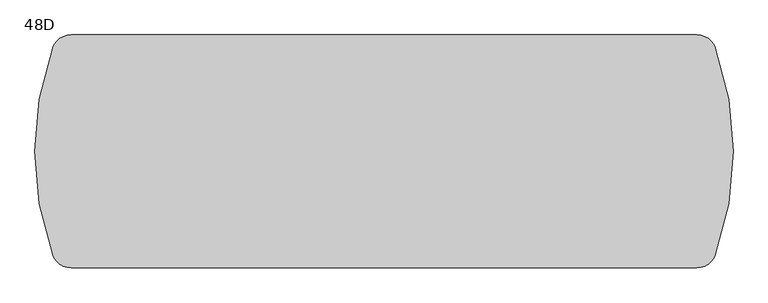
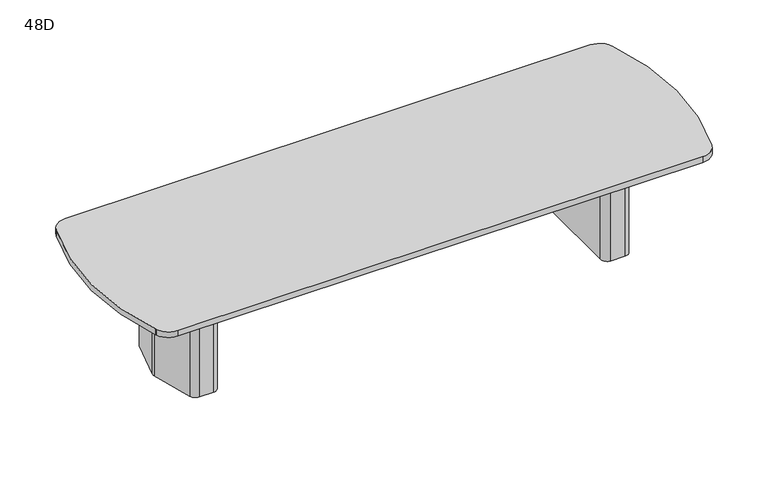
"""IFC4 building model written with IfcOpenShell, lengths in millimetres: furniture geometry, Coalesse_AM_Table_Conference_ETable2_SoftRadiused_12ft_TwoBase : 48D."""

from ifc_helpers import new_model, si_unit, point, frame, frame_2d, origin, place, context, project, spatial, polyline, circle_curve, trimmed, segment, composite_curve, outline, extrude, source, transform, mapped, element, save
from ifc_brep_helpers import plane_surface, cylinder_surface, revolved_surface, advanced_brep


def furniture_48d_a1ee706f(model_context):
    return source(origin(), model_context, "Body", "SolidModel", [
        advanced_brep(
        [(1370.224548, 274.2093613, 698.5), (1330.3579246, 304.8, 698.5), (1241.425, 304.8, 698.5), (1200.15, 263.525, 698.5), (1200.15, -263.525, 698.5), (1241.425, -304.8, 698.5), (1330.3579246, -304.8, 698.5), (1370.224548, -274.2093613, 698.5), (1440.8503901, -10.6333708, 698.5), (1440.8503901, 10.6333708, 698.5), (1238.25, -206.375, 698.5), (1238.25, 206.375, 698.5), (1263.65, 231.775, 698.5), (1322.6608422, 231.775, 698.5), (1347.195338, 212.9490792, 698.5), (1385.8875, 68.54974, 698.5), (1385.8875, -68.54974, 698.5), (1347.195338, -212.9490792, 698.5), (1322.6608422, -231.775, 698.5), (1263.65, -231.775, 698.5), (1370.224548, 274.2093613, 3.175), (1440.8503901, 10.6333708, 3.175), (1440.8503901, -10.6333708, 3.175), (1370.224548, -274.2093613, 3.175), (1330.3579246, -304.8, 3.175), (1241.425, -304.8, 3.175), (1200.15, -263.525, 3.175), (1200.15, 263.525, 3.175), (1241.425, 304.8, 3.175), (1330.3579246, 304.8, 3.175), (1359.4625859, 216.2361187, 3.175), (1322.6608422, 244.475, 3.175), (1263.65, 244.475, 3.175), (1225.55, 206.375, 3.175), (1225.55, -206.375, 3.175), (1263.65, -244.475, 3.175), (1322.6608422, -244.475, 3.175), (1359.4625859, -216.2361187, 3.175), (1398.5875, -70.2217466, 3.175), (1398.5875, 70.2217466, 3.175), (1263.65, -231.775, 3.175), (1238.25, -206.375, 3.175), (1322.6608422, -231.775, 3.175), (1347.195338, -212.9490792, 3.175), (1385.8875, -68.54974, 3.175), (1385.8875, 68.54974, 3.175), (1347.195338, 212.9490792, 3.175), (1322.6608422, 231.775, 3.175), (1263.65, 231.775, 3.175), (1238.25, 206.375, 3.175), (1359.4625859, 216.2361187, 0.0), (1398.5875, 70.2217466, 0.0), (1398.5875, -70.2217466, 0.0), (1359.4625859, -216.2361187, 0.0), (1322.6608422, -244.475, 0.0), (1263.65, -244.475, 0.0), (1225.55, -206.375, 0.0), (1225.55, 206.375, 0.0), (1263.65, 244.475, 0.0), (1322.6608422, 244.475, 0.0)],
        [
            (0, 1, circle_curve(frame((1330.3579246, 263.5270004, 698.5), z_axis=(0.0, 0.0, 1.0), x_axis=(-1.0, 0.0, 0.0)), 41.2729996)),
            (1, 2),
            (2, 3, circle_curve(frame((1241.425, 263.525, 698.5), z_axis=(0.0, 0.0, 1.0), x_axis=(-1.0, 0.0, 0.0)), 41.275)),
            (3, 4),
            (4, 5, circle_curve(frame((1241.425, -263.525, 698.5), z_axis=(0.0, 0.0, 1.0), x_axis=(-1.0, 0.0, 0.0)), 41.275)),
            (5, 6),
            (6, 7, circle_curve(frame((1330.3579246, -263.5270004, 698.5), z_axis=(0.0, 0.0, 1.0), x_axis=(-1.0, 0.0, 0.0)), 41.2729996)),
            (7, 8),
            (8, 9, circle_curve(frame((1401.1665979, 0.0, 698.5), z_axis=(0.0, 0.0, 1.0), x_axis=(-1.0, 0.0, 0.0)), 41.0837187)),
            (9, 0),
            (10, 11),
            (11, 12, circle_curve(frame((1263.65, 206.375, 698.5), z_axis=(0.0, 0.0, -1.0), x_axis=(-1.0, 0.0, 0.0)), 25.4)),
            (12, 13),
            (13, 14, circle_curve(frame((1322.6608422, 206.375, 698.5), z_axis=(0.0, 0.0, -1.0), x_axis=(-1.0, 0.0, 0.0)), 25.4)),
            (14, 15),
            (15, 16),
            (16, 17),
            (17, 18, circle_curve(frame((1322.6608422, -206.375, 698.5), z_axis=(0.0, 0.0, -1.0), x_axis=(-1.0, 0.0, 0.0)), 25.4)),
            (18, 19),
            (19, 10, circle_curve(frame((1263.65, -206.375, 698.5), z_axis=(0.0, 0.0, -1.0), x_axis=(-1.0, 0.0, 0.0)), 25.4)),
            (20, 21),
            (21, 22, circle_curve(frame((1401.1665979, 0.0, 3.175), z_axis=(0.0, 0.0, -1.0), x_axis=(-1.0, 0.0, 0.0)), 41.0837187)),
            (22, 23),
            (23, 24, circle_curve(frame((1330.3579246, -263.5270004, 3.175), z_axis=(0.0, 0.0, -1.0), x_axis=(-1.0, 0.0, 0.0)), 41.2729996)),
            (24, 25),
            (25, 26, circle_curve(frame((1241.425, -263.525, 3.175), z_axis=(0.0, 0.0, -1.0), x_axis=(-1.0, 0.0, 0.0)), 41.275)),
            (26, 27),
            (27, 28, circle_curve(frame((1241.425, 263.525, 3.175), z_axis=(0.0, 0.0, -1.0), x_axis=(-1.0, 0.0, 0.0)), 41.275)),
            (28, 29),
            (29, 20, circle_curve(frame((1330.3579246, 263.5270004, 3.175), z_axis=(0.0, 0.0, -1.0), x_axis=(-1.0, 0.0, 0.0)), 41.2729996)),
            (30, 31, circle_curve(frame((1322.6608422, 206.375, 3.175), z_axis=(0.0, 0.0, 1.0), x_axis=(-1.0, 0.0, 0.0)), 38.1)),
            (31, 32),
            (32, 33, circle_curve(frame((1263.65, 206.375, 3.175), z_axis=(0.0, 0.0, 1.0), x_axis=(-1.0, 0.0, 0.0)), 38.1)),
            (33, 34),
            (34, 35, circle_curve(frame((1263.65, -206.375, 3.175), z_axis=(0.0, 0.0, 1.0), x_axis=(-1.0, 0.0, 0.0)), 38.1)),
            (35, 36),
            (36, 37, circle_curve(frame((1322.6608422, -206.375, 3.175), z_axis=(0.0, 0.0, 1.0), x_axis=(-1.0, 0.0, 0.0)), 38.1)),
            (37, 38),
            (38, 39),
            (39, 30),
            (9, 21),
            (20, 0),
            (8, 22),
            (7, 23),
            (6, 24),
            (5, 25),
            (4, 26),
            (3, 27),
            (2, 28),
            (1, 29),
            (19, 40),
            (40, 41, circle_curve(frame((1263.65, -206.375, 3.175), z_axis=(0.0, 0.0, -1.0), x_axis=(-1.0, 0.0, 0.0)), 25.4)),
            (41, 10),
            (18, 42),
            (42, 40),
            (17, 43),
            (43, 42, circle_curve(frame((1322.6608422, -206.375, 3.175), z_axis=(0.0, 0.0, -1.0), x_axis=(-1.0, 0.0, 0.0)), 25.4)),
            (16, 44),
            (44, 43),
            (15, 45),
            (45, 44),
            (14, 46),
            (46, 45),
            (13, 47),
            (47, 46, circle_curve(frame((1322.6608422, 206.375, 3.175), z_axis=(0.0, 0.0, -1.0), x_axis=(-1.0, 0.0, 0.0)), 25.4)),
            (12, 48),
            (48, 47),
            (11, 49),
            (49, 48, circle_curve(frame((1263.65, 206.375, 3.175), z_axis=(0.0, 0.0, -1.0), x_axis=(-1.0, 0.0, 0.0)), 25.4)),
            (41, 49),
            (50, 51),
            (51, 52),
            (52, 53),
            (53, 54, circle_curve(frame((1322.6608422, -206.375, 0.0), z_axis=(0.0, 0.0, -1.0), x_axis=(-1.0, 0.0, 0.0)), 38.1)),
            (54, 55),
            (55, 56, circle_curve(frame((1263.65, -206.375, 0.0), z_axis=(0.0, 0.0, -1.0), x_axis=(-1.0, 0.0, 0.0)), 38.1)),
            (56, 57),
            (57, 58, circle_curve(frame((1263.65, 206.375, 0.0), z_axis=(0.0, 0.0, -1.0), x_axis=(-1.0, 0.0, 0.0)), 38.1)),
            (58, 59),
            (59, 50, circle_curve(frame((1322.6608422, 206.375, 0.0), z_axis=(0.0, 0.0, -1.0), x_axis=(-1.0, 0.0, 0.0)), 38.1)),
            (50, 30),
            (39, 51),
            (38, 52),
            (37, 53),
            (36, 54),
            (35, 55),
            (34, 56),
            (33, 57),
            (32, 58),
            (31, 59),
        ],
        [
            plane_surface(frame((1440.8374275, 10.6817473, 698.5), z_axis=(0.0, 0.0, 1.0000000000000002), x_axis=(0.25882201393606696, -0.9659250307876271, 0.0))),
            plane_surface(frame((1440.8374275, 10.6817473, 3.175), z_axis=(0.0, 0.0, -1.0000000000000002), x_axis=(-0.25882201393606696, 0.9659250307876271, 0.0))),
            plane_surface(frame((1370.224548, 274.2093613, 698.5), z_axis=(0.9659250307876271, 0.25882201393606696, 0.0), x_axis=(0.0, 0.0, -1.0))),
            cylinder_surface(frame((1401.1665979, 0.0, 3.175), z_axis=(0.0, 0.0, 1.0), x_axis=(-1.0, 0.0, 0.0)), 41.0837187),
            plane_surface(frame((1440.8503901, -10.6333708, 698.5), z_axis=(0.9659250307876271, -0.2588220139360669, 0.0), x_axis=(0.0, 0.0, -1.0))),
            cylinder_surface(frame((1330.3579246, -263.5270004, 3.175), z_axis=(0.0, 0.0, 1.0), x_axis=(-1.0, 0.0, 0.0)), 41.2729996),
            plane_surface(frame((1330.3579246, -304.8, 698.5), z_axis=(0.0, -1.0, 0.0), x_axis=(0.0, 0.0, -1.0))),
            cylinder_surface(frame((1241.425, -263.525, 3.175), z_axis=(0.0, 0.0, 1.0), x_axis=(-1.0, 0.0, 0.0)), 41.275),
            plane_surface(frame((1200.15, -263.525, 698.5), z_axis=(-1.0, 0.0, 0.0), x_axis=(0.0, 0.0, -1.0))),
            cylinder_surface(frame((1241.425, 263.525, 3.175), z_axis=(0.0, 0.0, 1.0), x_axis=(-1.0, 0.0, 0.0)), 41.275),
            plane_surface(frame((1241.425, 304.8, 698.5), z_axis=(0.0, 1.0, 0.0), x_axis=(0.0, 0.0, -1.0))),
            cylinder_surface(frame((1330.3579246, 263.5270004, 3.175), z_axis=(0.0, 0.0, 1.0), x_axis=(-1.0, 0.0, 0.0)), 41.2729996),
            revolved_surface(polyline([(1238.25, -206.375, 3.175), (1238.25, -206.375, 698.5)]), (1263.65, -206.375, 0.0), (0.0, 0.0, -1.0)),
            plane_surface(frame((1263.65, -231.775, 698.5), z_axis=(0.0, 1.0, 0.0), x_axis=(0.0, 0.0, -1.0))),
            revolved_surface(polyline([(1297.2608421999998, -206.375, 3.175), (1297.2608421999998, -206.375, 698.5)]), (1322.6608422, -206.375, 0.0), (0.0, 0.0, -1.0)),
            plane_surface(frame((1347.195338, -212.9490792, 698.5), z_axis=(-0.9659250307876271, 0.2588220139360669, 0.0), x_axis=(0.0, 0.0, -1.0))),
            plane_surface(frame((1385.8875, -68.54974, 698.5), z_axis=(-1.0, 0.0, 0.0), x_axis=(0.0, 0.0, -1.0))),
            plane_surface(frame((1385.8875, 68.54974, 698.5), z_axis=(-0.9659250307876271, -0.25882201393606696, 0.0), x_axis=(0.0, 0.0, -1.0))),
            revolved_surface(polyline([(1297.2608421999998, 206.375, 3.175), (1297.2608421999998, 206.375, 698.5)]), (1322.6608422, 206.375, 0.0), (0.0, 0.0, -1.0)),
            plane_surface(frame((1322.6608422, 231.775, 698.5), z_axis=(0.0, -1.0, 0.0), x_axis=(0.0, 0.0, -1.0))),
            revolved_surface(polyline([(1238.25, 206.375, 3.175), (1238.25, 206.375, 698.5)]), (1263.65, 206.375, 0.0), (0.0, 0.0, -1.0)),
            plane_surface(frame((1238.25, 206.375, 698.5), z_axis=(1.0, 0.0, 0.0), x_axis=(0.0, 0.0, -1.0))),
            plane_surface(frame((1398.1547479, 71.8367796, 3.175), z_axis=(0.0, 0.0, 1.0), x_axis=(0.25882201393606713, -0.965925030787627, 0.0))),
            plane_surface(frame((1398.1547479, 71.8367796, 0.0), z_axis=(0.0, 0.0, -1.0), x_axis=(-0.25882201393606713, 0.965925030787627, 0.0))),
            plane_surface(frame((1359.4625859, 216.2361187, 3.175), z_axis=(0.965925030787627, 0.25882201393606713, 0.0), x_axis=(0.0, 0.0, -1.0))),
            plane_surface(frame((1398.5875, 70.2217466, 3.175), z_axis=(1.0, 0.0, 0.0), x_axis=(0.0, 0.0, -1.0))),
            plane_surface(frame((1398.5875, -70.2217466, 3.175), z_axis=(0.9659250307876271, -0.2588220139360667, 0.0), x_axis=(0.0, 0.0, -1.0))),
            cylinder_surface(frame((1322.6608422, -206.375, 0.0), z_axis=(0.0, 0.0, 1.0), x_axis=(-1.0, 0.0, 0.0)), 38.1),
            plane_surface(frame((1322.6608422, -244.475, 3.175), z_axis=(0.0, -1.0, 0.0), x_axis=(0.0, 0.0, -1.0))),
            cylinder_surface(frame((1263.65, -206.375, 0.0), z_axis=(0.0, 0.0, 1.0), x_axis=(-1.0, 0.0, 0.0)), 38.1),
            plane_surface(frame((1225.55, -206.375, 3.175), z_axis=(-1.0, 0.0, 0.0), x_axis=(0.0, 0.0, -1.0))),
            cylinder_surface(frame((1263.65, 206.375, 0.0), z_axis=(0.0, 0.0, 1.0), x_axis=(-1.0, 0.0, 0.0)), 38.1),
            plane_surface(frame((1263.65, 244.475, 3.175), z_axis=(0.0, 1.0, 0.0), x_axis=(0.0, 0.0, -1.0))),
            cylinder_surface(frame((1322.6608422, 206.375, 0.0), z_axis=(0.0, 0.0, 1.0), x_axis=(-1.0, 0.0, 0.0)), 38.1),
        ],
        [
            (0, [[1, 2, 3, 4, 5, 6, 7, 8, 9, 10], [11, 12, 13, 14, 15, 16, 17, 18, 19, 20]]),
            (1, [[21, 22, 23, 24, 25, 26, 27, 28, 29, 30], [31, 32, 33, 34, 35, 36, 37, 38, 39, 40]]),
            (2, [[41, -21, 42, -10]]),
            (3, [[43, -22, -41, -9]]),
            (4, [[44, -23, -43, -8]]),
            (5, [[45, -24, -44, -7]]),
            (6, [[46, -25, -45, -6]]),
            (7, [[47, -26, -46, -5]]),
            (8, [[48, -27, -47, -4]]),
            (9, [[49, -28, -48, -3]]),
            (10, [[50, -29, -49, -2]]),
            (11, [[-42, -30, -50, -1]]),
            (12, [[51, 52, 53, -20]]),
            (13, [[54, 55, -51, -19]]),
            (14, [[56, 57, -54, -18]]),
            (15, [[58, 59, -56, -17]]),
            (16, [[60, 61, -58, -16]]),
            (17, [[62, 63, -60, -15]]),
            (18, [[64, 65, -62, -14]]),
            (19, [[66, 67, -64, -13]]),
            (20, [[68, 69, -66, -12]]),
            (21, [[-53, 70, -68, -11]]),
            (22, [[-55, -57, -59, -61, -63, -65, -67, -69, -70, -52]]),
            (23, [[71, 72, 73, 74, 75, 76, 77, 78, 79, 80]]),
            (24, [[81, -40, 82, -71]]),
            (25, [[-82, -39, 83, -72]]),
            (26, [[-83, -38, 84, -73]]),
            (27, [[-84, -37, 85, -74]]),
            (28, [[-85, -36, 86, -75]]),
            (29, [[-86, -35, 87, -76]]),
            (30, [[-87, -34, 88, -77]]),
            (31, [[-88, -33, 89, -78]]),
            (32, [[-89, -32, 90, -79]]),
            (33, [[-90, -31, -81, -80]]),
        ],
    ),
        advanced_brep(
        [(-1370.224548, 274.2093613, 698.5), (-1440.8503901, 10.6333708, 698.5), (-1440.8503901, -10.6333708, 698.5), (-1370.224548, -274.2093613, 698.5), (-1330.3579246, -304.8, 698.5), (-1241.425, -304.8, 698.5), (-1200.15, -263.525, 698.5), (-1200.15, 263.525, 698.5), (-1241.425, 304.8, 698.5), (-1330.3579246, 304.8, 698.5), (-1238.25, -206.375, 698.5), (-1263.65, -231.775, 698.5), (-1322.6608422, -231.775, 698.5), (-1347.195338, -212.9490792, 698.5), (-1385.8875, -68.54974, 698.5), (-1385.8875, 68.54974, 698.5), (-1347.195338, 212.9490792, 698.5), (-1322.6608422, 231.775, 698.5), (-1263.65, 231.775, 698.5), (-1238.25, 206.375, 698.5), (-1370.224548, 274.2093613, 3.175), (-1330.3579246, 304.8, 3.175), (-1241.425, 304.8, 3.175), (-1200.15, 263.525, 3.175), (-1200.15, -263.525, 3.175), (-1241.425, -304.8, 3.175), (-1330.3579246, -304.8, 3.175), (-1370.224548, -274.2093613, 3.175), (-1440.8503901, -10.6333708, 3.175), (-1440.8503901, 10.6333708, 3.175), (-1359.4625859, 216.2361187, 3.175), (-1398.5875, 70.2217466, 3.175), (-1398.5875, -70.2217466, 3.175), (-1359.4625859, -216.2361187, 3.175), (-1322.6608422, -244.475, 3.175), (-1263.65, -244.475, 3.175), (-1225.55, -206.375, 3.175), (-1225.55, 206.375, 3.175), (-1263.65, 244.475, 3.175), (-1322.6608422, 244.475, 3.175), (-1238.25, -206.375, 3.175), (-1263.65, -231.775, 3.175), (-1322.6608422, -231.775, 3.175), (-1347.195338, -212.9490792, 3.175), (-1385.8875, -68.54974, 3.175), (-1385.8875, 68.54974, 3.175), (-1347.195338, 212.9490792, 3.175), (-1322.6608422, 231.775, 3.175), (-1263.65, 231.775, 3.175), (-1238.25, 206.375, 3.175), (-1359.4625859, 216.2361187, 0.0), (-1322.6608422, 244.475, 0.0), (-1263.65, 244.475, 0.0), (-1225.55, 206.375, 0.0), (-1225.55, -206.375, 0.0), (-1263.65, -244.475, 0.0), (-1322.6608422, -244.475, 0.0), (-1359.4625859, -216.2361187, 0.0), (-1398.5875, -70.2217466, 0.0), (-1398.5875, 70.2217466, 0.0)],
        [
            (0, 1),
            (1, 2, circle_curve(frame((-1401.1665979, 0.0, 698.5), z_axis=(0.0, 0.0, 1.0), x_axis=(1.0, 0.0, 0.0)), 41.0837187)),
            (2, 3),
            (3, 4, circle_curve(frame((-1330.3579246, -263.5270004, 698.5), z_axis=(0.0, 0.0, 1.0), x_axis=(1.0, 0.0, 0.0)), 41.2729996)),
            (4, 5),
            (5, 6, circle_curve(frame((-1241.425, -263.525, 698.5), z_axis=(0.0, 0.0, 1.0), x_axis=(1.0, 0.0, 0.0)), 41.275)),
            (6, 7),
            (7, 8, circle_curve(frame((-1241.425, 263.525, 698.5), z_axis=(0.0, 0.0, 1.0), x_axis=(1.0, 0.0, 0.0)), 41.275)),
            (8, 9),
            (9, 0, circle_curve(frame((-1330.3579246, 263.5270004, 698.5), z_axis=(0.0, 0.0, 1.0), x_axis=(1.0, 0.0, 0.0)), 41.2729996)),
            (10, 11, circle_curve(frame((-1263.65, -206.375, 698.5), z_axis=(0.0, 0.0, -1.0), x_axis=(1.0, 0.0, 0.0)), 25.4)),
            (11, 12),
            (12, 13, circle_curve(frame((-1322.6608422, -206.375, 698.5), z_axis=(0.0, 0.0, -1.0), x_axis=(1.0, 0.0, 0.0)), 25.4)),
            (13, 14),
            (14, 15),
            (15, 16),
            (16, 17, circle_curve(frame((-1322.6608422, 206.375, 698.5), z_axis=(0.0, 0.0, -1.0), x_axis=(1.0, 0.0, 0.0)), 25.4)),
            (17, 18),
            (18, 19, circle_curve(frame((-1263.65, 206.375, 698.5), z_axis=(0.0, 0.0, -1.0), x_axis=(1.0, 0.0, 0.0)), 25.4)),
            (19, 10),
            (20, 21, circle_curve(frame((-1330.3579246, 263.5270004, 3.175), z_axis=(0.0, 0.0, -1.0), x_axis=(1.0, 0.0, 0.0)), 41.2729996)),
            (21, 22),
            (22, 23, circle_curve(frame((-1241.425, 263.525, 3.175), z_axis=(0.0, 0.0, -1.0), x_axis=(1.0, 0.0, 0.0)), 41.275)),
            (23, 24),
            (24, 25, circle_curve(frame((-1241.425, -263.525, 3.175), z_axis=(0.0, 0.0, -1.0), x_axis=(1.0, 0.0, 0.0)), 41.275)),
            (25, 26),
            (26, 27, circle_curve(frame((-1330.3579246, -263.5270004, 3.175), z_axis=(0.0, 0.0, -1.0), x_axis=(1.0, 0.0, 0.0)), 41.2729996)),
            (27, 28),
            (28, 29, circle_curve(frame((-1401.1665979, 0.0, 3.175), z_axis=(0.0, 0.0, -1.0), x_axis=(1.0, 0.0, 0.0)), 41.0837187)),
            (29, 20),
            (30, 31),
            (31, 32),
            (32, 33),
            (33, 34, circle_curve(frame((-1322.6608422, -206.375, 3.175), z_axis=(0.0, 0.0, 1.0), x_axis=(1.0, 0.0, 0.0)), 38.1)),
            (34, 35),
            (35, 36, circle_curve(frame((-1263.65, -206.375, 3.175), z_axis=(0.0, 0.0, 1.0), x_axis=(1.0, 0.0, 0.0)), 38.1)),
            (36, 37),
            (37, 38, circle_curve(frame((-1263.65, 206.375, 3.175), z_axis=(0.0, 0.0, 1.0), x_axis=(1.0, 0.0, 0.0)), 38.1)),
            (38, 39),
            (39, 30, circle_curve(frame((-1322.6608422, 206.375, 3.175), z_axis=(0.0, 0.0, 1.0), x_axis=(1.0, 0.0, 0.0)), 38.1)),
            (0, 20),
            (29, 1),
            (28, 2),
            (27, 3),
            (26, 4),
            (25, 5),
            (24, 6),
            (23, 7),
            (22, 8),
            (21, 9),
            (10, 40),
            (40, 41, circle_curve(frame((-1263.65, -206.375, 3.175), z_axis=(0.0, 0.0, -1.0), x_axis=(1.0, 0.0, 0.0)), 25.4)),
            (41, 11),
            (41, 42),
            (42, 12),
            (42, 43, circle_curve(frame((-1322.6608422, -206.375, 3.175), z_axis=(0.0, 0.0, -1.0), x_axis=(1.0, 0.0, 0.0)), 25.4)),
            (43, 13),
            (43, 44),
            (44, 14),
            (44, 45),
            (45, 15),
            (45, 46),
            (46, 16),
            (46, 47, circle_curve(frame((-1322.6608422, 206.375, 3.175), z_axis=(0.0, 0.0, -1.0), x_axis=(1.0, 0.0, 0.0)), 25.4)),
            (47, 17),
            (47, 48),
            (48, 18),
            (48, 49, circle_curve(frame((-1263.65, 206.375, 3.175), z_axis=(0.0, 0.0, -1.0), x_axis=(1.0, 0.0, 0.0)), 25.4)),
            (49, 19),
            (49, 40),
            (50, 51, circle_curve(frame((-1322.6608422, 206.375, 0.0), z_axis=(0.0, 0.0, -1.0), x_axis=(1.0, 0.0, 0.0)), 38.1)),
            (51, 52),
            (52, 53, circle_curve(frame((-1263.65, 206.375, 0.0), z_axis=(0.0, 0.0, -1.0), x_axis=(1.0, 0.0, 0.0)), 38.1)),
            (53, 54),
            (54, 55, circle_curve(frame((-1263.65, -206.375, 0.0), z_axis=(0.0, 0.0, -1.0), x_axis=(1.0, 0.0, 0.0)), 38.1)),
            (55, 56),
            (56, 57, circle_curve(frame((-1322.6608422, -206.375, 0.0), z_axis=(0.0, 0.0, -1.0), x_axis=(1.0, 0.0, 0.0)), 38.1)),
            (57, 58),
            (58, 59),
            (59, 50),
            (59, 31),
            (30, 50),
            (58, 32),
            (57, 33),
            (56, 34),
            (55, 35),
            (54, 36),
            (53, 37),
            (52, 38),
            (51, 39),
        ],
        [
            plane_surface(frame((-1440.8374275, 10.6817473, 698.5), z_axis=(0.0, 0.0, 1.0000000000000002), x_axis=(-0.25882201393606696, -0.9659250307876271, 0.0))),
            plane_surface(frame((-1440.8374275, 10.6817473, 3.175), z_axis=(0.0, 0.0, -1.0000000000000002), x_axis=(0.25882201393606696, 0.9659250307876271, 0.0))),
            plane_surface(frame((-1370.224548, 274.2093613, 698.5), z_axis=(-0.9659250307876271, 0.25882201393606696, 0.0), x_axis=(0.0, 0.0, -1.0))),
            cylinder_surface(frame((-1401.1665979, 0.0, 3.175), z_axis=(0.0, 0.0, 1.0), x_axis=(1.0, 0.0, 0.0)), 41.0837187),
            plane_surface(frame((-1440.8503901, -10.6333708, 698.5), z_axis=(-0.9659250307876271, -0.2588220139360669, 0.0), x_axis=(0.0, 0.0, -1.0))),
            cylinder_surface(frame((-1330.3579246, -263.5270004, 3.175), z_axis=(0.0, 0.0, 1.0), x_axis=(1.0, 0.0, 0.0)), 41.2729996),
            plane_surface(frame((-1330.3579246, -304.8, 698.5), z_axis=(0.0, -1.0, 0.0), x_axis=(0.0, 0.0, -1.0))),
            cylinder_surface(frame((-1241.425, -263.525, 3.175), z_axis=(0.0, 0.0, 1.0), x_axis=(1.0, 0.0, 0.0)), 41.275),
            plane_surface(frame((-1200.15, -263.525, 698.5), z_axis=(1.0, 0.0, 0.0), x_axis=(0.0, 0.0, -1.0))),
            cylinder_surface(frame((-1241.425, 263.525, 3.175), z_axis=(0.0, 0.0, 1.0), x_axis=(1.0, 0.0, 0.0)), 41.275),
            plane_surface(frame((-1241.425, 304.8, 698.5), z_axis=(0.0, 1.0, 0.0), x_axis=(0.0, 0.0, -1.0))),
            cylinder_surface(frame((-1330.3579246, 263.5270004, 3.175), z_axis=(0.0, 0.0, 1.0), x_axis=(1.0, 0.0, 0.0)), 41.2729996),
            revolved_surface(polyline([(-1238.25, -206.375, 3.175), (-1238.25, -206.375, 698.5)]), (-1263.65, -206.375, 0.0), (0.0, 0.0, -1.0)),
            plane_surface(frame((-1263.65, -231.775, 698.5), z_axis=(0.0, 1.0, 0.0), x_axis=(0.0, 0.0, -1.0))),
            revolved_surface(polyline([(-1297.2608421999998, -206.375, 3.175), (-1297.2608421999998, -206.375, 698.5)]), (-1322.6608422, -206.375, 0.0), (0.0, 0.0, -1.0)),
            plane_surface(frame((-1347.195338, -212.9490792, 698.5), z_axis=(0.9659250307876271, 0.2588220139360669, 0.0), x_axis=(0.0, 0.0, -1.0))),
            plane_surface(frame((-1385.8875, -68.54974, 698.5), z_axis=(1.0, 0.0, 0.0), x_axis=(0.0, 0.0, -1.0))),
            plane_surface(frame((-1385.8875, 68.54974, 698.5), z_axis=(0.9659250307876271, -0.25882201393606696, 0.0), x_axis=(0.0, 0.0, -1.0))),
            revolved_surface(polyline([(-1297.2608421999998, 206.375, 3.175), (-1297.2608421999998, 206.375, 698.5)]), (-1322.6608422, 206.375, 0.0), (0.0, 0.0, -1.0)),
            plane_surface(frame((-1322.6608422, 231.775, 698.5), z_axis=(0.0, -1.0, 0.0), x_axis=(0.0, 0.0, -1.0))),
            revolved_surface(polyline([(-1238.25, 206.375, 3.175), (-1238.25, 206.375, 698.5)]), (-1263.65, 206.375, 0.0), (0.0, 0.0, -1.0)),
            plane_surface(frame((-1238.25, 206.375, 698.5), z_axis=(-1.0, 0.0, 0.0), x_axis=(0.0, 0.0, -1.0))),
            plane_surface(frame((-1398.1547479, 71.8367796, 3.175), z_axis=(0.0, 0.0, 1.0), x_axis=(-0.25882201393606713, -0.965925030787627, 0.0))),
            plane_surface(frame((-1398.1547479, 71.8367796, 0.0), z_axis=(0.0, 0.0, -1.0), x_axis=(0.25882201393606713, 0.965925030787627, 0.0))),
            plane_surface(frame((-1359.4625859, 216.2361187, 3.175), z_axis=(-0.965925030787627, 0.25882201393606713, 0.0), x_axis=(0.0, 0.0, -1.0))),
            plane_surface(frame((-1398.5875, 70.2217466, 3.175), z_axis=(-1.0, 0.0, 0.0), x_axis=(0.0, 0.0, -1.0))),
            plane_surface(frame((-1398.5875, -70.2217466, 3.175), z_axis=(-0.9659250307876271, -0.2588220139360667, 0.0), x_axis=(0.0, 0.0, -1.0))),
            cylinder_surface(frame((-1322.6608422, -206.375, 0.0), z_axis=(0.0, 0.0, 1.0), x_axis=(1.0, 0.0, 0.0)), 38.1),
            plane_surface(frame((-1322.6608422, -244.475, 3.175), z_axis=(0.0, -1.0, 0.0), x_axis=(0.0, 0.0, -1.0))),
            cylinder_surface(frame((-1263.65, -206.375, 0.0), z_axis=(0.0, 0.0, 1.0), x_axis=(1.0, 0.0, 0.0)), 38.1),
            plane_surface(frame((-1225.55, -206.375, 3.175), z_axis=(1.0, 0.0, 0.0), x_axis=(0.0, 0.0, -1.0))),
            cylinder_surface(frame((-1263.65, 206.375, 0.0), z_axis=(0.0, 0.0, 1.0), x_axis=(1.0, 0.0, 0.0)), 38.1),
            plane_surface(frame((-1263.65, 244.475, 3.175), z_axis=(0.0, 1.0, 0.0), x_axis=(0.0, 0.0, -1.0))),
            cylinder_surface(frame((-1322.6608422, 206.375, 0.0), z_axis=(0.0, 0.0, 1.0), x_axis=(1.0, 0.0, 0.0)), 38.1),
        ],
        [
            (0, [[1, 2, 3, 4, 5, 6, 7, 8, 9, 10], [11, 12, 13, 14, 15, 16, 17, 18, 19, 20]]),
            (1, [[21, 22, 23, 24, 25, 26, 27, 28, 29, 30], [31, 32, 33, 34, 35, 36, 37, 38, 39, 40]]),
            (2, [[-1, 41, -30, 42]]),
            (3, [[-2, -42, -29, 43]]),
            (4, [[-3, -43, -28, 44]]),
            (5, [[-4, -44, -27, 45]]),
            (6, [[-5, -45, -26, 46]]),
            (7, [[-6, -46, -25, 47]]),
            (8, [[-7, -47, -24, 48]]),
            (9, [[-8, -48, -23, 49]]),
            (10, [[-9, -49, -22, 50]]),
            (11, [[-10, -50, -21, -41]]),
            (12, [[-11, 51, 52, 53]]),
            (13, [[-12, -53, 54, 55]]),
            (14, [[-13, -55, 56, 57]]),
            (15, [[-14, -57, 58, 59]]),
            (16, [[-15, -59, 60, 61]]),
            (17, [[-16, -61, 62, 63]]),
            (18, [[-17, -63, 64, 65]]),
            (19, [[-18, -65, 66, 67]]),
            (20, [[-19, -67, 68, 69]]),
            (21, [[-20, -69, 70, -51]]),
            (22, [[-52, -70, -68, -66, -64, -62, -60, -58, -56, -54]]),
            (23, [[71, 72, 73, 74, 75, 76, 77, 78, 79, 80]]),
            (24, [[-80, 81, -31, 82]]),
            (25, [[-79, 83, -32, -81]]),
            (26, [[-78, 84, -33, -83]]),
            (27, [[-77, 85, -34, -84]]),
            (28, [[-76, 86, -35, -85]]),
            (29, [[-75, 87, -36, -86]]),
            (30, [[-74, 88, -37, -87]]),
            (31, [[-73, 89, -38, -88]]),
            (32, [[-72, 90, -39, -89]]),
            (33, [[-71, -82, -40, -90]]),
        ],
    ),
        extrude(outline(composite_curve([segment(trimmed(circle_curve(frame_2d((-209.55, 5.18e-05)), 1619.25), [point((-1736.1539068, -539.8620365))], [point((-1736.1956256, 539.7441544))], False, "CARTESIAN"), True, "CONTINUOUS"), segment(polyline([(-1736.1956256, 539.7441544), (-1735.4453442, 541.8662966)]), True, "CONTINUOUS"), segment(trimmed(circle_curve(frame_2d((-1639.6558148, 508.0)), 101.6), [point((-1735.4453442, 541.8662966))], [point((-1639.6558148, 609.6))], False, "CARTESIAN"), True, "CONTINUOUS"), segment(polyline([(-1639.6558148, 609.6), (1639.6558148, 609.6)]), True, "CONTINUOUS"), segment(trimmed(circle_curve(frame_2d((1639.6558148, 508.0)), 101.6), [point((1639.6558148, 609.6))], [point((1735.4453444, 541.8662962))], False, "CARTESIAN"), True, "CONTINUOUS"), segment(polyline([(1735.4453444, 541.8662962), (1736.1956281, 539.7441474)]), True, "CONTINUOUS"), segment(trimmed(circle_curve(frame_2d((209.55, 5.18e-05)), 1619.25), [point((1736.1956281, 539.7441474))], [point((1736.2015476, -539.7273003))], False, "CARTESIAN"), True, "CONTINUOUS"), segment(polyline([(1736.2015476, -539.7273003), (1735.4457113, -541.8652293)]), True, "CONTINUOUS"), segment(trimmed(circle_curve(frame_2d((1639.6557872, -507.9999756)), 101.6000244), [point((1735.4457113, -541.8652293))], [point((1639.6557872, -609.6))], False, "CARTESIAN"), True, "CONTINUOUS"), segment(polyline([(1639.6557872, -609.6), (-1639.6555469, -609.6)]), True, "CONTINUOUS"), segment(trimmed(circle_curve(frame_2d((-1639.6555469, -507.999927)), 101.600073), [point((-1639.6555469, -609.6))], [point((-1735.4425275, -541.873651))], False, "CARTESIAN"), True, "CONTINUOUS"), segment(polyline([(-1735.4425275, -541.873651), (-1736.1539068, -539.8620365)]), True, "CONTINUOUS")], self_intersect=False)), frame((0.0, 0.0, 698.5), z_axis=(0.0, 0.0, 1.0), x_axis=(1.0, 0.0, 0.0)), (0.0, 0.0, 1.0), 38.1),
        extrude(outline(polyline([(96.8375, 698.5), (103.1875, 698.5), (103.1875, 476.25), (-103.1875, 476.25), (-103.1875, 698.5), (-96.8375, 698.5), (-96.8375, 482.6), (96.8375, 482.6), (96.8375, 698.5)])), frame((-1200.15, 0.0, 0.0), z_axis=(1.0, 0.0, 0.0), x_axis=(0.0, 1.0, 0.0)), (0.0, 0.0, 1.0), 2400.3),
    ])


if __name__ == "__main__":
    model = new_model("IFC4")
    model_context = context("Model", 3, world=origin())
    ifc_project = project(units=[si_unit("LENGTHUNIT", "METRE", prefix="MILLI")], contexts=[model_context])
    site = spatial("IfcSite", under=ifc_project)
    building = spatial("IfcBuilding", under=site)
    placement = place(None, origin())
    furniture_48d_shape = furniture_48d_a1ee706f(model_context)
    element("IfcFurniture", 1, ObjectType="Coalesse_AM_Table_Conference_ETable2_SoftRadiused_12ft_TwoBase : 48D", at=placement, inside=building, context=model_context, shape_type="MappedRepresentation", body=[
        mapped(furniture_48d_shape, transform((0.0, 0.0, 0.0), x_axis=(1.0, 0.0, 0.0), y_axis=(0.0, 1.0, 0.0), z_axis=(0.0, 0.0, 1.0))),
    ])
    save(model, "model.ifc")
